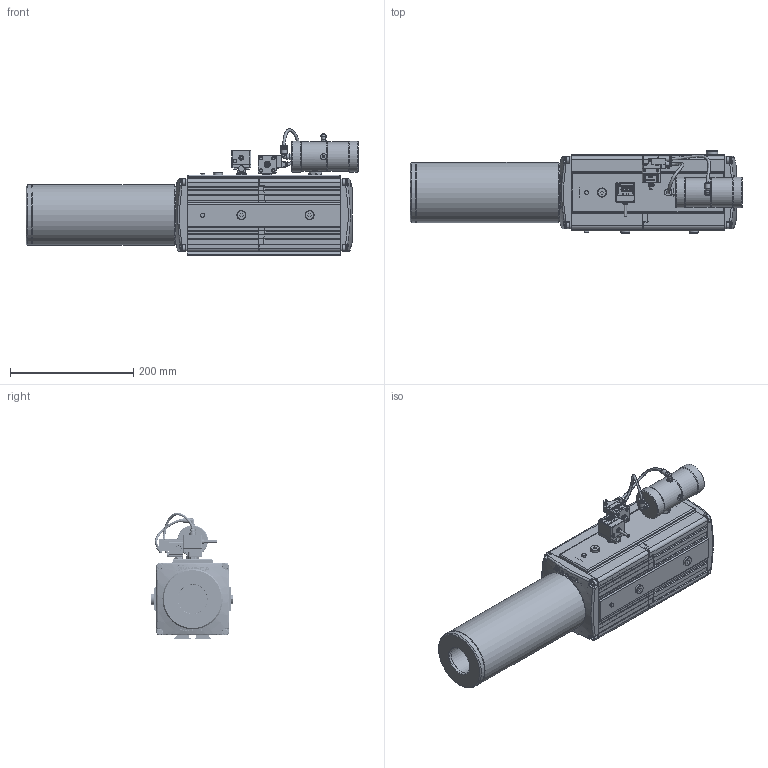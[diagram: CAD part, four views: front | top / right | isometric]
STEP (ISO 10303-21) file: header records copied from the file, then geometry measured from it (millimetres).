
FILE_DESCRIPTION( ( 'Unknown' ), '1' );
FILE_NAME( 'C:/Documents and Settings/Administrator/官帕 拳搁/3D Dimension/MPM303X5-02S-AS-S2.stp', 'Unknown', ( 'Unknown' ), ( 'Unknown' ), 'PSStep 10.0', 'Unknown', ' ' );
FILE_SCHEMA( ( 'AUTOMOTIVE_DESIGN { 1 0 10303 214 1 1 1 1 }' ) );
Length unit declared in the file: millimetre
Products named in the file (29): Assem1; SILENCER_0_1_0; VMS34(DIM)_2; COVER_0_1_0; ELEMENT_0_0_0; SPONGE_0_0_0; END CAP_0_0_0; VMS34_Cap-34(dim)_2; VMS34_Housing(dim)_2; VMS34_Cap-18(dim)_2; PL-0401_2_0; M4_3_0; M4_1_2_0; M6-Bolt_2_0_0; END CAP-212_2_0_0; VTP-M5_2_0_0; Double Tread PT12M-PT12M_2_0; Double Tread 18M-18M_3_0; red_2_0_0; VTP18_2_0_0; VTP14_2_0_0; END CAP-112_2_0_0; VPS-01_VMS38_2_0; M4 ELBOW FITTING_1_2_0; Body(re1)(dim)_9_0; VTP18_21_0; VTP-M5_21_0; VP20 T_1; 18_18
Bounding box: 539.5 x 134 x 205.14 mm (x, y, z)
Volume: 12895700.2 mm3; surface area: 1911215.1 mm2
Topology: 74 solids, 76 shells, 5355 faces, 13352 edges, 8653 vertices
Faces by surface type: plane 3417, cylinder 1102, cone 320, extrusion 196, bspline 120, sphere 100, torus 96, revolution 4
Full cylindrical faces by diameter (mm): 0.435 x2, 0.884 x4, 1.008 x9, 2.2 x4, 2.3 x2, 3.242 x8, 4 x8, 4.075 x4, 4.134 x6, 4.2 x30, 4.5 x2, 4.552 x4, 5 x4, 5.2 x6, 5.4 x4, 5.85 x4, 6 x19, 6.064 x2, 6.316 x2, 6.337 x4, 6.5 x16, 6.8 x12, 7 x2, 7.9 x2, 7.94 x2, 8 x6, 8.566 x5, 8.58 x2, 8.6 x2, 8.8 x10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
Entity records: 104113 total; most frequent: CARTESIAN_POINT 24222, ORIENTED_EDGE 11916, DIRECTION 11775, EDGE_CURVE 5958, VECTOR 4043, VERTEX_POINT 4030, LINE 3945, AXIS2_PLACEMENT_3D 3865
